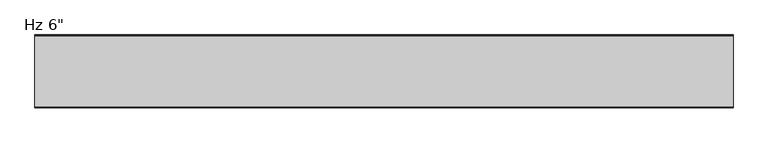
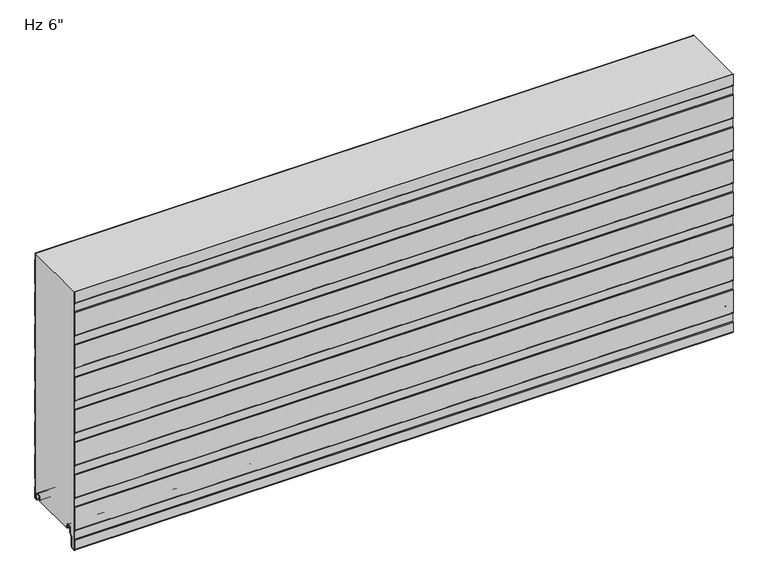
"""IFC4 building model written with IfcOpenShell, lengths in millimetres: plate geometry."""

from ifc_helpers import new_model, si_unit, point, frame, frame_2d, origin, place, context, project, spatial, polyline, circle_curve, trimmed, segment, composite_curve, outline, extrude, source, transform, mapped, element, save
from ifc_brep_helpers import plane_surface, cylinder_surface, revolved_surface, advanced_brep


def plate_5278eb09(model_context):
    return source(origin(), model_context, "Body", "SolidModel", [
        advanced_brep(
        [(-730.0, -17.0015368, 2.0313088), (-730.0, -18.00154, 1.0313116), (-730.0, -19.0015314, 2.0313088), (-730.0, -19.0015314, 6.0315125), (-730.0, -18.0015368, 6.0315125), (-730.0, -18.0015368, 8.7237223), (-730.0, -14.7015411, 12.023718), (-730.0, -10.3015499, 12.023718), (-730.0, -7.0015544, 8.7237225), (-730.0, -7.0015544, -1.6962564), (-730.0, -5.2315602, -3.4662506), (-730.0, -1.0000126, -3.4662506), (-730.0, -1.0000126, 21.034026), (-730.0, -2.2002516, 22.4196686), (-730.0, -2.2002516, 41.7948349), (-730.0, -1.0000209, 43.1804679), (-730.0, -1.0000209, 97.2338833), (-730.0, -2.2002516, 98.6195162), (-730.0, -2.2002516, 117.9946825), (-730.0, -1.0000209, 119.3803155), (-730.0, -1.0000209, 173.4337309), (-730.0, -2.2002516, 174.8193638), (-730.0, -2.2002516, 194.1945301), (-730.0, -1.0000209, 195.5801631), (-730.0, -1.0000209, 249.6335785), (-730.0, -2.2002516, 251.0192114), (-730.0, -2.2002516, 270.3943777), (-730.0, -1.0000209, 271.7800107), (-730.0, -1.0000209, 325.8334261), (-730.0, -2.2002516, 327.219059), (-730.0, -2.2002516, 346.5942253), (-730.0, -1.0000209, 347.9798583), (-730.0, -1.0000209, 402.0332737), (-730.0, -2.2002516, 403.4189066), (-730.0, -2.2002516, 422.7940729), (-730.0, -1.0000209, 424.1797059), (-730.0, -1.0000209, 478.2331213), (-730.0, -2.2002516, 479.6187542), (-730.0, -2.2002516, 498.9939205), (-730.0, -1.0000209, 500.3795535), (-730.0, -1.0000209, 554.4329689), (-730.0, -2.2002516, 555.8186018), (-730.0, -2.2002516, 571.2), (-730.0, -1.2002516, 571.2), (-730.0, -1.2002516, 556.1914823), (-730.0, -0.3418094, 555.2004346), (-730.0, -2.09e-05, 554.2838177), (-730.0, -2.09e-05, 500.5287046), (-730.0, -0.3418094, 499.6120877), (-730.0, -1.2002516, 498.6210401), (-730.0, -1.2002516, 479.9916347), (-730.0, -0.3418094, 479.000587), (-730.0, -2.09e-05, 478.0839701), (-730.0, -2.09e-05, 424.328857), (-730.0, -0.3418094, 423.4122401), (-730.0, -1.2002516, 422.4211925), (-730.0, -1.2002516, 403.7917871), (-730.0, -0.3418094, 402.8007394), (-730.0, -2.09e-05, 401.8841225), (-730.0, -2.09e-05, 348.1290094), (-730.0, -0.3418094, 347.2123925), (-730.0, -1.2002516, 346.2213449), (-730.0, -1.2002516, 327.5919395), (-730.0, -0.3418094, 326.6008918), (-730.0, -2.09e-05, 325.6842749), (-730.0, -2.09e-05, 271.9291618), (-730.0, -0.3418094, 271.0125449), (-730.0, -1.2002516, 270.0214973), (-730.0, -1.2002516, 251.3920919), (-730.0, -0.3418094, 250.4010442), (-730.0, -2.09e-05, 249.4844273), (-730.0, -2.09e-05, 195.7293142), (-730.0, -0.3418094, 194.8126973), (-730.0, -1.2002516, 193.8216497), (-730.0, -1.2002516, 175.1922443), (-730.0, -0.3418094, 174.2011966), (-730.0, -2.09e-05, 173.2845797), (-730.0, -2.09e-05, 119.5294666), (-730.0, -0.3418094, 118.6128497), (-730.0, -1.2002516, 117.6218021), (-730.0, -1.2002516, 98.9923967), (-730.0, -0.3418094, 98.001349), (-730.0, -2.09e-05, 97.0847321), (-730.0, -2.09e-05, 43.329619), (-730.0, -0.3418094, 42.4130021), (-730.0, -1.2002516, 41.4219545), (-730.0, -1.2002516, 22.7925491), (-730.0, -0.3418094, 21.8015014), (-730.0, -2.09e-05, 20.8847931), (-730.0, -1.26e-05, -3.0662545), (-730.0, -1.4000087, -4.4662506), (-730.0, -5.2315602, -4.4662506), (-730.0, -8.0015544, -1.6962564), (-730.0, -8.0015544, 8.7237225), (-730.0, -10.3015499, 11.023718), (-730.0, -14.7015411, 11.023718), (-730.0, -17.0015368, 8.7237223), (730.0, -17.0015368, 2.0313088), (730.0, -17.0015368, 8.7237223), (730.0, -14.7015411, 11.023718), (730.0, -10.3015499, 11.023718), (730.0, -8.0015544, 8.7237225), (730.0, -8.0015544, -1.6962564), (730.0, -5.2315602, -4.4662506), (730.0, -1.4000087, -4.4662506), (730.0, -1.26e-05, -3.0662545), (730.0, -1.26e-05, 20.8848845), (730.0, -0.3418094, 21.8015014), (730.0, -1.2002516, 22.7925491), (730.0, -1.2002516, 41.4219545), (730.0, -0.3418094, 42.4130021), (730.0, -2.09e-05, 43.329619), (730.0, -2.09e-05, 97.0847321), (730.0, -0.3418094, 98.001349), (730.0, -1.2002516, 98.9923967), (730.0, -1.2002516, 117.6218021), (730.0, -0.3418094, 118.6128497), (730.0, -2.09e-05, 119.5294666), (730.0, -2.09e-05, 173.2845797), (730.0, -0.3418094, 174.2011966), (730.0, -1.2002516, 175.1922443), (730.0, -1.2002516, 193.8216497), (730.0, -0.3418094, 194.8126973), (730.0, -2.09e-05, 195.7293142), (730.0, -2.09e-05, 249.4844273), (730.0, -0.3418094, 250.4010442), (730.0, -1.2002516, 251.3920919), (730.0, -1.2002516, 270.0214973), (730.0, -0.3418094, 271.0125449), (730.0, -2.09e-05, 271.9291618), (730.0, -2.09e-05, 325.6842749), (730.0, -0.3418094, 326.6008918), (730.0, -1.2002516, 327.5919395), (730.0, -1.2002516, 346.2213449), (730.0, -0.3418094, 347.2123925), (730.0, -2.09e-05, 348.1290094), (730.0, -2.09e-05, 401.8841225), (730.0, -0.3418094, 402.8007394), (730.0, -1.2002516, 403.7917871), (730.0, -1.2002516, 422.4211925), (730.0, -0.3418094, 423.4122401), (730.0, -2.09e-05, 424.328857), (730.0, -2.09e-05, 478.0839701), (730.0, -0.3418094, 479.000587), (730.0, -1.2002516, 479.9916347), (730.0, -1.2002516, 498.6210401), (730.0, -0.3418094, 499.6120877), (730.0, -2.09e-05, 500.5287046), (730.0, -2.09e-05, 554.2838177), (730.0, -0.3418094, 555.2004346), (730.0, -1.2002516, 556.1914823), (730.0, -1.2002516, 571.2), (730.0, -2.2002516, 571.2), (730.0, -2.2002516, 555.8186018), (730.0, -1.0000209, 554.4329689), (730.0, -1.0000209, 500.3795535), (730.0, -2.2002516, 498.9939205), (730.0, -2.2002516, 479.6187542), (730.0, -1.0000209, 478.2331213), (730.0, -1.0000209, 424.1797059), (730.0, -2.2002516, 422.7940729), (730.0, -2.2002516, 403.4189066), (730.0, -1.0000209, 402.0332737), (730.0, -1.0000209, 347.9798583), (730.0, -2.2002516, 346.5942253), (730.0, -2.2002516, 327.219059), (730.0, -1.0000209, 325.8334261), (730.0, -1.0000209, 271.7800107), (730.0, -2.2002516, 270.3943777), (730.0, -2.2002516, 251.0192114), (730.0, -1.0000209, 249.6335785), (730.0, -1.0000209, 195.5801631), (730.0, -2.2002516, 194.1945301), (730.0, -2.2002516, 174.8193638), (730.0, -1.0000209, 173.4337309), (730.0, -1.0000209, 119.3803155), (730.0, -2.2002516, 117.9946825), (730.0, -2.2002516, 98.6195162), (730.0, -1.0000209, 97.2338833), (730.0, -1.0000209, 43.1804679), (730.0, -2.2002516, 41.7948349), (730.0, -2.2002516, 22.4196686), (730.0, -1.0000126, 21.034026), (730.0, -1.0000126, -3.4662506), (730.0, -5.2315602, -3.4662506), (730.0, -7.0015544, -1.6962564), (730.0, -7.0015544, 8.7237225), (730.0, -10.3015499, 12.023718), (730.0, -14.7015411, 12.023718), (730.0, -18.0015368, 8.7237223), (730.0, -18.0015368, 6.0315125), (730.0, -19.0015314, 6.0315125), (730.0, -19.0015314, 2.0313088), (730.0, -18.0015401, 1.0313116)],
        [
            (0, 1, circle_curve(frame((-730.0, -18.0015341, 2.0313088), z_axis=(-1.0, 0.0, 0.0), x_axis=(0.0, 0.0, 1.0)), 0.9999973)),
            (1, 2, circle_curve(frame((-730.0, -18.0015342, 2.0313088), z_axis=(-1.0, 0.0, 0.0), x_axis=(0.0, 0.0, 1.0)), 0.9999972)),
            (2, 3),
            (3, 4),
            (4, 5),
            (5, 6, circle_curve(frame((-730.0, -14.7015411, 8.7237223), z_axis=(-1.0, 0.0, 0.0), x_axis=(0.0, 0.0, 1.0)), 3.2999957)),
            (6, 7),
            (7, 8, circle_curve(frame((-730.0, -10.3015499, 8.7237225), z_axis=(-1.0, 0.0, 0.0), x_axis=(0.0, 0.0, 1.0)), 3.2999955)),
            (8, 9),
            (9, 10, circle_curve(frame((-730.0, -5.2315602, -1.6962564), z_axis=(1.0, 0.0, 0.0), x_axis=(0.0, 0.0, 1.0)), 1.7699942)),
            (10, 11),
            (11, 12),
            (12, 13),
            (13, 14),
            (14, 15),
            (15, 16),
            (16, 17),
            (17, 18),
            (18, 19),
            (19, 20),
            (20, 21),
            (21, 22),
            (22, 23),
            (23, 24),
            (24, 25),
            (25, 26),
            (26, 27),
            (27, 28),
            (28, 29),
            (29, 30),
            (30, 31),
            (31, 32),
            (32, 33),
            (33, 34),
            (34, 35),
            (35, 36),
            (36, 37),
            (37, 38),
            (38, 39),
            (39, 40),
            (40, 41),
            (41, 42),
            (42, 43),
            (43, 44),
            (44, 45),
            (45, 46, circle_curve(frame((-730.0, -1.4000181, 554.2838177), z_axis=(-1.0, 0.0, 0.0), x_axis=(0.0, 0.0, 1.0)), 1.3999972)),
            (46, 47),
            (47, 48, circle_curve(frame((-730.0, -1.4000181, 500.5287046), z_axis=(-1.0, 0.0, 0.0), x_axis=(0.0, 0.0, 1.0)), 1.3999972)),
            (48, 49),
            (49, 50),
            (50, 51),
            (51, 52, circle_curve(frame((-730.0, -1.4000181, 478.0839701), z_axis=(-1.0, 0.0, 0.0), x_axis=(0.0, 0.0, 1.0)), 1.3999972)),
            (52, 53),
            (53, 54, circle_curve(frame((-730.0, -1.4000181, 424.328857), z_axis=(-1.0, 0.0, 0.0), x_axis=(0.0, 0.0, 1.0)), 1.3999972)),
            (54, 55),
            (55, 56),
            (56, 57),
            (57, 58, circle_curve(frame((-730.0, -1.4000181, 401.8841225), z_axis=(-1.0, 0.0, 0.0), x_axis=(0.0, 0.0, 1.0)), 1.3999972)),
            (58, 59),
            (59, 60, circle_curve(frame((-730.0, -1.4000181, 348.1290094), z_axis=(-1.0, 0.0, 0.0), x_axis=(0.0, 0.0, 1.0)), 1.3999972)),
            (60, 61),
            (61, 62),
            (62, 63),
            (63, 64, circle_curve(frame((-730.0, -1.4000181, 325.6842749), z_axis=(-1.0, 0.0, 0.0), x_axis=(0.0, 0.0, 1.0)), 1.3999972)),
            (64, 65),
            (65, 66, circle_curve(frame((-730.0, -1.4000181, 271.9291618), z_axis=(-1.0, 0.0, 0.0), x_axis=(0.0, 0.0, 1.0)), 1.3999972)),
            (66, 67),
            (67, 68),
            (68, 69),
            (69, 70, circle_curve(frame((-730.0, -1.4000181, 249.4844273), z_axis=(-1.0, 0.0, 0.0), x_axis=(0.0, 0.0, 1.0)), 1.3999972)),
            (70, 71),
            (71, 72, circle_curve(frame((-730.0, -1.4000181, 195.7293142), z_axis=(-1.0, 0.0, 0.0), x_axis=(0.0, 0.0, 1.0)), 1.3999972)),
            (72, 73),
            (73, 74),
            (74, 75),
            (75, 76, circle_curve(frame((-730.0, -1.4000181, 173.2845797), z_axis=(-1.0, 0.0, 0.0), x_axis=(0.0, 0.0, 1.0)), 1.3999972)),
            (76, 77),
            (77, 78, circle_curve(frame((-730.0, -1.4000181, 119.5294666), z_axis=(-1.0, 0.0, 0.0), x_axis=(0.0, 0.0, 1.0)), 1.3999972)),
            (78, 79),
            (79, 80),
            (80, 81),
            (81, 82, circle_curve(frame((-730.0, -1.4000181, 97.0847321), z_axis=(-1.0, 0.0, 0.0), x_axis=(0.0, 0.0, 1.0)), 1.3999972)),
            (82, 83),
            (83, 84, circle_curve(frame((-730.0, -1.4000181, 43.329619), z_axis=(-1.0, 0.0, 0.0), x_axis=(0.0, 0.0, 1.0)), 1.3999972)),
            (84, 85),
            (85, 86),
            (86, 87),
            (87, 88, circle_curve(frame((-730.0, -1.4000181, 20.8848845), z_axis=(-1.0, 0.0, 0.0), x_axis=(0.0, 0.0, 1.0)), 1.3999972)),
            (88, 89),
            (89, 90, circle_curve(frame((-730.0, -1.4000087, -3.0662545), z_axis=(-1.0, 0.0, 0.0), x_axis=(0.0, 0.0, 1.0)), 1.3999962)),
            (90, 91),
            (91, 92, circle_curve(frame((-730.0, -5.2315602, -1.6962564), z_axis=(-1.0, 0.0, 0.0), x_axis=(0.0, 0.0, 1.0)), 2.7699942)),
            (92, 93),
            (93, 94, circle_curve(frame((-730.0, -10.3015499, 8.7237225), z_axis=(1.0, 0.0, 0.0), x_axis=(0.0, 0.0, 1.0)), 2.2999955)),
            (94, 95),
            (95, 96, circle_curve(frame((-730.0, -14.7015411, 8.7237223), z_axis=(1.0, 0.0, 0.0), x_axis=(0.0, 0.0, 1.0)), 2.2999957)),
            (96, 0),
            (97, 98),
            (98, 99, circle_curve(frame((730.0, -14.7015411, 8.7237223), z_axis=(-1.0, 0.0, 0.0), x_axis=(0.0, 0.0, 1.0)), 2.2999957)),
            (99, 100),
            (100, 101, circle_curve(frame((730.0, -10.3015499, 8.7237225), z_axis=(-1.0, 0.0, 0.0), x_axis=(0.0, 0.0, 1.0)), 2.2999955)),
            (101, 102),
            (102, 103, circle_curve(frame((730.0, -5.2315602, -1.6962564), z_axis=(1.0, 0.0, 0.0), x_axis=(0.0, 0.0, 1.0)), 2.7699942)),
            (103, 104),
            (104, 105, circle_curve(frame((730.0, -1.4000087, -3.0662545), z_axis=(1.0, 0.0, 0.0), x_axis=(0.0, 0.0, 1.0)), 1.3999962)),
            (105, 106),
            (106, 107, circle_curve(frame((730.0, -1.4000181, 20.8848845), z_axis=(1.0, 0.0, 0.0), x_axis=(0.0, 0.0, 1.0)), 1.3999972)),
            (107, 108),
            (108, 109),
            (109, 110),
            (110, 111, circle_curve(frame((730.0, -1.4000181, 43.329619), z_axis=(1.0, 0.0, 0.0), x_axis=(0.0, 0.0, 1.0)), 1.3999972)),
            (111, 112),
            (112, 113, circle_curve(frame((730.0, -1.4000181, 97.0847321), z_axis=(1.0, 0.0, 0.0), x_axis=(0.0, 0.0, 1.0)), 1.3999972)),
            (113, 114),
            (114, 115),
            (115, 116),
            (116, 117, circle_curve(frame((730.0, -1.4000181, 119.5294666), z_axis=(1.0, 0.0, 0.0), x_axis=(0.0, 0.0, 1.0)), 1.3999972)),
            (117, 118),
            (118, 119, circle_curve(frame((730.0, -1.4000181, 173.2845797), z_axis=(1.0, 0.0, 0.0), x_axis=(0.0, 0.0, 1.0)), 1.3999972)),
            (119, 120),
            (120, 121),
            (121, 122),
            (122, 123, circle_curve(frame((730.0, -1.4000181, 195.7293142), z_axis=(1.0, 0.0, 0.0), x_axis=(0.0, 0.0, 1.0)), 1.3999972)),
            (123, 124),
            (124, 125, circle_curve(frame((730.0, -1.4000181, 249.4844273), z_axis=(1.0, 0.0, 0.0), x_axis=(0.0, 0.0, 1.0)), 1.3999972)),
            (125, 126),
            (126, 127),
            (127, 128),
            (128, 129, circle_curve(frame((730.0, -1.4000181, 271.9291618), z_axis=(1.0, 0.0, 0.0), x_axis=(0.0, 0.0, 1.0)), 1.3999972)),
            (129, 130),
            (130, 131, circle_curve(frame((730.0, -1.4000181, 325.6842749), z_axis=(1.0, 0.0, 0.0), x_axis=(0.0, 0.0, 1.0)), 1.3999972)),
            (131, 132),
            (132, 133),
            (133, 134),
            (134, 135, circle_curve(frame((730.0, -1.4000181, 348.1290094), z_axis=(1.0, 0.0, 0.0), x_axis=(0.0, 0.0, 1.0)), 1.3999972)),
            (135, 136),
            (136, 137, circle_curve(frame((730.0, -1.4000181, 401.8841225), z_axis=(1.0, 0.0, 0.0), x_axis=(0.0, 0.0, 1.0)), 1.3999972)),
            (137, 138),
            (138, 139),
            (139, 140),
            (140, 141, circle_curve(frame((730.0, -1.4000181, 424.328857), z_axis=(1.0, 0.0, 0.0), x_axis=(0.0, 0.0, 1.0)), 1.3999972)),
            (141, 142),
            (142, 143, circle_curve(frame((730.0, -1.4000181, 478.0839701), z_axis=(1.0, 0.0, 0.0), x_axis=(0.0, 0.0, 1.0)), 1.3999972)),
            (143, 144),
            (144, 145),
            (145, 146),
            (146, 147, circle_curve(frame((730.0, -1.4000181, 500.5287046), z_axis=(1.0, 0.0, 0.0), x_axis=(0.0, 0.0, 1.0)), 1.3999972)),
            (147, 148),
            (148, 149, circle_curve(frame((730.0, -1.4000181, 554.2838177), z_axis=(1.0, 0.0, 0.0), x_axis=(0.0, 0.0, 1.0)), 1.3999972)),
            (149, 150),
            (150, 151),
            (151, 152),
            (152, 153),
            (153, 154),
            (154, 155),
            (155, 156),
            (156, 157),
            (157, 158),
            (158, 159),
            (159, 160),
            (160, 161),
            (161, 162),
            (162, 163),
            (163, 164),
            (164, 165),
            (165, 166),
            (166, 167),
            (167, 168),
            (168, 169),
            (169, 170),
            (170, 171),
            (171, 172),
            (172, 173),
            (173, 174),
            (174, 175),
            (175, 176),
            (176, 177),
            (177, 178),
            (178, 179),
            (179, 180),
            (180, 181),
            (181, 182),
            (182, 183),
            (183, 184),
            (184, 185, circle_curve(frame((730.0, -5.2315602, -1.6962564), z_axis=(-1.0, 0.0, 0.0), x_axis=(0.0, 0.0, 1.0)), 1.7699942)),
            (185, 186),
            (186, 187, circle_curve(frame((730.0, -10.3015499, 8.7237225), z_axis=(1.0, 0.0, 0.0), x_axis=(0.0, 0.0, 1.0)), 3.2999955)),
            (187, 188),
            (188, 189, circle_curve(frame((730.0, -14.7015411, 8.7237223), z_axis=(1.0, 0.0, 0.0), x_axis=(0.0, 0.0, 1.0)), 3.2999957)),
            (189, 190),
            (190, 191),
            (191, 192),
            (192, 193, circle_curve(frame((730.0, -18.0015342, 2.0313088), z_axis=(1.0, 0.0, 0.0), x_axis=(0.0, 0.0, 1.0)), 0.9999972)),
            (193, 97, circle_curve(frame((730.0, -18.0015341, 2.0313088), z_axis=(1.0, 0.0, 0.0), x_axis=(0.0, 0.0, 1.0)), 0.9999973)),
            (96, 98),
            (97, 0),
            (95, 99),
            (94, 100),
            (93, 101),
            (92, 102),
            (91, 103),
            (90, 104),
            (89, 105),
            (88, 106),
            (87, 107),
            (86, 108),
            (85, 109),
            (84, 110),
            (83, 111),
            (82, 112),
            (81, 113),
            (80, 114),
            (79, 115),
            (78, 116),
            (77, 117),
            (76, 118),
            (75, 119),
            (74, 120),
            (73, 121),
            (72, 122),
            (71, 123),
            (70, 124),
            (69, 125),
            (68, 126),
            (67, 127),
            (66, 128),
            (65, 129),
            (64, 130),
            (63, 131),
            (62, 132),
            (61, 133),
            (60, 134),
            (59, 135),
            (58, 136),
            (57, 137),
            (56, 138),
            (55, 139),
            (54, 140),
            (53, 141),
            (52, 142),
            (51, 143),
            (50, 144),
            (49, 145),
            (48, 146),
            (47, 147),
            (46, 148),
            (45, 149),
            (44, 150),
            (43, 151),
            (152, 42),
            (41, 153),
            (40, 154),
            (39, 155),
            (38, 156),
            (37, 157),
            (36, 158),
            (35, 159),
            (34, 160),
            (33, 161),
            (32, 162),
            (31, 163),
            (30, 164),
            (29, 165),
            (28, 166),
            (27, 167),
            (26, 168),
            (25, 169),
            (24, 170),
            (23, 171),
            (22, 172),
            (21, 173),
            (20, 174),
            (19, 175),
            (18, 176),
            (17, 177),
            (16, 178),
            (15, 179),
            (14, 180),
            (13, 181),
            (12, 182),
            (11, 183),
            (10, 184),
            (9, 185),
            (8, 186),
            (7, 187),
            (6, 188),
            (5, 189),
            (4, 190),
            (3, 191),
            (2, 192),
            (1, 193),
        ],
        [
            plane_surface(frame((-730.0, -2.09e-05, 457.2), z_axis=(-1.0, 0.0, 0.0), x_axis=(0.0, 1.0, 0.0))),
            plane_surface(frame((730.0, -2.09e-05, 457.2), z_axis=(1.0, 0.0, 0.0), x_axis=(0.0, 1.0, 0.0))),
            plane_surface(frame((-730.0, -17.0015368, 2.0313088), z_axis=(0.0, 1.0, 0.0), x_axis=(1.0, 0.0, 0.0))),
            revolved_surface(polyline([(730.0, -14.7015411, 11.023718), (-730.0, -14.7015411, 11.023718)]), (-730.0, -14.7015411, 8.7237223), (1.0, 0.0, 0.0)),
            plane_surface(frame((-730.0, -14.7015411, 11.023718), z_axis=(0.0, 0.0, -1.0), x_axis=(1.0, 0.0, 0.0))),
            revolved_surface(polyline([(730.0, -10.3015499, 11.023717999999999), (-730.0, -10.3015499, 11.023717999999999)]), (-730.0, -10.3015499, 8.7237225), (1.0, 0.0, 0.0)),
            plane_surface(frame((-730.0, -8.0015544, 8.7237225), z_axis=(0.0, -1.0, 0.0), x_axis=(1.0, 0.0, 0.0))),
            cylinder_surface(frame((-730.0, -5.2315602, -1.6962564), z_axis=(-1.0, 0.0, 0.0), x_axis=(0.0, 0.0, 1.0)), 2.7699942),
            plane_surface(frame((-730.0, -5.2315602, -4.4662506), z_axis=(0.0, 0.0, -1.0), x_axis=(1.0, 0.0, 0.0))),
            cylinder_surface(frame((-730.0, -1.4000087, -3.0662545), z_axis=(-1.0, 0.0, 0.0), x_axis=(0.0, 0.0, 1.0)), 1.3999962),
            plane_surface(frame((-730.0, -1.26e-05, -3.0662545), z_axis=(0.0, 1.0, 0.0), x_axis=(1.0, 0.0, 0.0))),
            cylinder_surface(frame((-730.0, -1.4000181, 20.8848845), z_axis=(-1.0, 0.0, 0.0), x_axis=(0.0, 0.0, 1.0)), 1.3999972),
            plane_surface(frame((-730.0, -0.3418094, 21.8015014), z_axis=(0.0, 0.755864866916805, 0.6547276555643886), x_axis=(1.0, 0.0, 0.0))),
            plane_surface(frame((-730.0, -1.2002516, 32.1072518), z_axis=(0.0, 1.0, 0.0), x_axis=(1.0, 0.0, 0.0))),
            plane_surface(frame((-730.0, -1.2002516, 41.4219545), z_axis=(0.0, 0.755864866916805, -0.6547276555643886), x_axis=(1.0, 0.0, 0.0))),
            cylinder_surface(frame((-730.0, -1.4000181, 43.329619), z_axis=(-1.0, 0.0, 0.0), x_axis=(0.0, 0.0, 1.0)), 1.3999972),
            plane_surface(frame((-730.0, -2.09e-05, 43.329619), z_axis=(0.0, 1.0, 0.0), x_axis=(1.0, 0.0, 0.0))),
            cylinder_surface(frame((-730.0, -1.4000181, 97.0847321), z_axis=(-1.0, 0.0, 0.0), x_axis=(0.0, 0.0, 1.0)), 1.3999972),
            plane_surface(frame((-730.0, -0.3418094, 98.001349), z_axis=(0.0, 0.755864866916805, 0.6547276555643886), x_axis=(1.0, 0.0, 0.0))),
            plane_surface(frame((-730.0, -1.2002516, 108.3070994), z_axis=(0.0, 1.0, 0.0), x_axis=(1.0, 0.0, 0.0))),
            plane_surface(frame((-730.0, -1.2002516, 117.6218021), z_axis=(0.0, 0.755864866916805, -0.6547276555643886), x_axis=(1.0, 0.0, 0.0))),
            cylinder_surface(frame((-730.0, -1.4000181, 119.5294666), z_axis=(-1.0, 0.0, 0.0), x_axis=(0.0, 0.0, 1.0)), 1.3999972),
            plane_surface(frame((-730.0, -2.09e-05, 119.5294666), z_axis=(0.0, 1.0, 0.0), x_axis=(1.0, 0.0, 0.0))),
            cylinder_surface(frame((-730.0, -1.4000181, 173.2845797), z_axis=(-1.0, 0.0, 0.0), x_axis=(0.0, 0.0, 1.0)), 1.3999972),
            plane_surface(frame((-730.0, -0.3418094, 174.2011966), z_axis=(0.0, 0.755864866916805, 0.6547276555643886), x_axis=(1.0, 0.0, 0.0))),
            plane_surface(frame((-730.0, -1.2002516, 184.506947), z_axis=(0.0, 1.0, 0.0), x_axis=(1.0, 0.0, 0.0))),
            plane_surface(frame((-730.0, -1.2002516, 193.8216497), z_axis=(0.0, 0.755864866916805, -0.6547276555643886), x_axis=(1.0, 0.0, 0.0))),
            cylinder_surface(frame((-730.0, -1.4000181, 195.7293142), z_axis=(-1.0, 0.0, 0.0), x_axis=(0.0, 0.0, 1.0)), 1.3999972),
            plane_surface(frame((-730.0, -2.09e-05, 195.7293142), z_axis=(0.0, 1.0, 0.0), x_axis=(1.0, 0.0, 0.0))),
            cylinder_surface(frame((-730.0, -1.4000181, 249.4844273), z_axis=(-1.0, 0.0, 0.0), x_axis=(0.0, 0.0, 1.0)), 1.3999972),
            plane_surface(frame((-730.0, -0.3418094, 250.4010442), z_axis=(0.0, 0.755864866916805, 0.6547276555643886), x_axis=(1.0, 0.0, 0.0))),
            plane_surface(frame((-730.0, -1.2002516, 260.7067946), z_axis=(0.0, 1.0, 0.0), x_axis=(1.0, 0.0, 0.0))),
            plane_surface(frame((-730.0, -1.2002516, 270.0214973), z_axis=(0.0, 0.755864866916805, -0.6547276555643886), x_axis=(1.0, 0.0, 0.0))),
            cylinder_surface(frame((-730.0, -1.4000181, 271.9291618), z_axis=(-1.0, 0.0, 0.0), x_axis=(0.0, 0.0, 1.0)), 1.3999972),
            plane_surface(frame((-730.0, -2.09e-05, 271.9291618), z_axis=(0.0, 1.0, 0.0), x_axis=(1.0, 0.0, 0.0))),
            cylinder_surface(frame((-730.0, -1.4000181, 325.6842749), z_axis=(-1.0, 0.0, 0.0), x_axis=(0.0, 0.0, 1.0)), 1.3999972),
            plane_surface(frame((-730.0, -0.3418094, 326.6008918), z_axis=(0.0, 0.755864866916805, 0.6547276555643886), x_axis=(1.0, 0.0, 0.0))),
            plane_surface(frame((-730.0, -1.2002516, 336.9066422), z_axis=(0.0, 1.0, 0.0), x_axis=(1.0, 0.0, 0.0))),
            plane_surface(frame((-730.0, -1.2002516, 346.2213449), z_axis=(0.0, 0.755864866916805, -0.6547276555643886), x_axis=(1.0, 0.0, 0.0))),
            cylinder_surface(frame((-730.0, -1.4000181, 348.1290094), z_axis=(-1.0, 0.0, 0.0), x_axis=(0.0, 0.0, 1.0)), 1.3999972),
            plane_surface(frame((-730.0, -2.09e-05, 348.1290094), z_axis=(0.0, 1.0, 0.0), x_axis=(1.0, 0.0, 0.0))),
            cylinder_surface(frame((-730.0, -1.4000181, 401.8841225), z_axis=(-1.0, 0.0, 0.0), x_axis=(0.0, 0.0, 1.0)), 1.3999972),
            plane_surface(frame((-730.0, -0.3418094, 402.8007394), z_axis=(0.0, 0.755864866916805, 0.6547276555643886), x_axis=(1.0, 0.0, 0.0))),
            plane_surface(frame((-730.0, -1.2002516, 413.1064898), z_axis=(0.0, 1.0, 0.0), x_axis=(1.0, 0.0, 0.0))),
            plane_surface(frame((-730.0, -1.2002516, 422.4211925), z_axis=(0.0, 0.755864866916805, -0.6547276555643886), x_axis=(1.0, 0.0, 0.0))),
            cylinder_surface(frame((-730.0, -1.4000181, 424.328857), z_axis=(-1.0, 0.0, 0.0), x_axis=(0.0, 0.0, 1.0)), 1.3999972),
            plane_surface(frame((-730.0, -2.09e-05, 424.328857), z_axis=(0.0, 1.0, 0.0), x_axis=(1.0, 0.0, 0.0))),
            cylinder_surface(frame((-730.0, -1.4000181, 478.0839701), z_axis=(-1.0, 0.0, 0.0), x_axis=(0.0, 0.0, 1.0)), 1.3999972),
            plane_surface(frame((-730.0, -0.3418094, 479.000587), z_axis=(0.0, 0.755864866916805, 0.6547276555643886), x_axis=(1.0, 0.0, 0.0))),
            plane_surface(frame((-730.0, -1.2002516, 489.3063374), z_axis=(0.0, 1.0, 0.0), x_axis=(1.0, 0.0, 0.0))),
            plane_surface(frame((-730.0, -1.2002516, 498.6210401), z_axis=(0.0, 0.755864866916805, -0.6547276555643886), x_axis=(1.0, 0.0, 0.0))),
            cylinder_surface(frame((-730.0, -1.4000181, 500.5287046), z_axis=(-1.0, 0.0, 0.0), x_axis=(0.0, 0.0, 1.0)), 1.3999972),
            plane_surface(frame((-730.0, -2.09e-05, 500.5287046), z_axis=(0.0, 1.0, 0.0), x_axis=(1.0, 0.0, 0.0))),
            cylinder_surface(frame((-730.0, -1.4000181, 554.2838177), z_axis=(-1.0, 0.0, 0.0), x_axis=(0.0, 0.0, 1.0)), 1.3999972),
            plane_surface(frame((-730.0, -0.3418094, 555.2004346), z_axis=(0.0, 0.755864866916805, 0.6547276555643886), x_axis=(1.0, 0.0, 0.0))),
            plane_surface(frame((-730.0, -1.2002516, 565.506185), z_axis=(0.0, 1.0, 0.0), x_axis=(1.0, 0.0, 0.0))),
            plane_surface(frame((-730.0, -2.2002516, 575.1937681), z_axis=(0.0, -1.0, 0.0), x_axis=(1.0, 0.0, 0.0))),
            plane_surface(frame((-730.0, -2.2002516, 555.8186018), z_axis=(0.0, -0.755864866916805, -0.6547276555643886), x_axis=(1.0, 0.0, 0.0))),
            plane_surface(frame((-730.0, -1.0000209, 554.4329689), z_axis=(0.0, -1.0, 0.0), x_axis=(1.0, 0.0, 0.0))),
            plane_surface(frame((-730.0, -1.0000209, 500.3795535), z_axis=(0.0, -0.755864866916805, 0.6547276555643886), x_axis=(1.0, 0.0, 0.0))),
            plane_surface(frame((-730.0, -2.2002516, 498.9939205), z_axis=(0.0, -1.0, 0.0), x_axis=(1.0, 0.0, 0.0))),
            plane_surface(frame((-730.0, -2.2002516, 479.6187542), z_axis=(0.0, -0.755864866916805, -0.6547276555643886), x_axis=(1.0, 0.0, 0.0))),
            plane_surface(frame((-730.0, -1.0000209, 478.2331213), z_axis=(0.0, -1.0, 0.0), x_axis=(1.0, 0.0, 0.0))),
            plane_surface(frame((-730.0, -1.0000209, 424.1797059), z_axis=(0.0, -0.755864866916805, 0.6547276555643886), x_axis=(1.0, 0.0, 0.0))),
            plane_surface(frame((-730.0, -2.2002516, 422.7940729), z_axis=(0.0, -1.0, 0.0), x_axis=(1.0, 0.0, 0.0))),
            plane_surface(frame((-730.0, -2.2002516, 403.4189066), z_axis=(0.0, -0.755864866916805, -0.6547276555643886), x_axis=(1.0, 0.0, 0.0))),
            plane_surface(frame((-730.0, -1.0000209, 402.0332737), z_axis=(0.0, -1.0, 0.0), x_axis=(1.0, 0.0, 0.0))),
            plane_surface(frame((-730.0, -1.0000209, 347.9798583), z_axis=(0.0, -0.755864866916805, 0.6547276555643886), x_axis=(1.0, 0.0, 0.0))),
            plane_surface(frame((-730.0, -2.2002516, 346.5942253), z_axis=(0.0, -1.0, 0.0), x_axis=(1.0, 0.0, 0.0))),
            plane_surface(frame((-730.0, -2.2002516, 327.219059), z_axis=(0.0, -0.755864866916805, -0.6547276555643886), x_axis=(1.0, 0.0, 0.0))),
            plane_surface(frame((-730.0, -1.0000209, 325.8334261), z_axis=(0.0, -1.0, 0.0), x_axis=(1.0, 0.0, 0.0))),
            plane_surface(frame((-730.0, -1.0000209, 271.7800107), z_axis=(0.0, -0.755864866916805, 0.6547276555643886), x_axis=(1.0, 0.0, 0.0))),
            plane_surface(frame((-730.0, -2.2002516, 270.3943777), z_axis=(0.0, -1.0, 0.0), x_axis=(1.0, 0.0, 0.0))),
            plane_surface(frame((-730.0, -2.2002516, 251.0192114), z_axis=(0.0, -0.755864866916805, -0.6547276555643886), x_axis=(1.0, 0.0, 0.0))),
            plane_surface(frame((-730.0, -1.0000209, 249.6335785), z_axis=(0.0, -1.0, 0.0), x_axis=(1.0, 0.0, 0.0))),
            plane_surface(frame((-730.0, -1.0000209, 195.5801631), z_axis=(0.0, -0.755864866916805, 0.6547276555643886), x_axis=(1.0, 0.0, 0.0))),
            plane_surface(frame((-730.0, -2.2002516, 194.1945301), z_axis=(0.0, -1.0, 0.0), x_axis=(1.0, 0.0, 0.0))),
            plane_surface(frame((-730.0, -2.2002516, 174.8193638), z_axis=(0.0, -0.755864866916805, -0.6547276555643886), x_axis=(1.0, 0.0, 0.0))),
            plane_surface(frame((-730.0, -1.0000209, 173.4337309), z_axis=(0.0, -1.0, 0.0), x_axis=(1.0, 0.0, 0.0))),
            plane_surface(frame((-730.0, -1.0000209, 119.3803155), z_axis=(0.0, -0.755864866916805, 0.6547276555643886), x_axis=(1.0, 0.0, 0.0))),
            plane_surface(frame((-730.0, -2.2002516, 117.9946825), z_axis=(0.0, -1.0, 0.0), x_axis=(1.0, 0.0, 0.0))),
            plane_surface(frame((-730.0, -2.2002516, 98.6195162), z_axis=(0.0, -0.755864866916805, -0.6547276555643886), x_axis=(1.0, 0.0, 0.0))),
            plane_surface(frame((-730.0, -1.0000209, 97.2338833), z_axis=(0.0, -1.0, 0.0), x_axis=(1.0, 0.0, 0.0))),
            plane_surface(frame((-730.0, -1.0000209, 43.1804679), z_axis=(0.0, -0.755864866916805, 0.6547276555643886), x_axis=(1.0, 0.0, 0.0))),
            plane_surface(frame((-730.0, -2.2002516, 41.7948349), z_axis=(0.0, -1.0, 0.0), x_axis=(1.0, 0.0, 0.0))),
            plane_surface(frame((-730.0, -2.2002516, 22.4196686), z_axis=(0.0, -0.755864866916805, -0.6547276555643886), x_axis=(1.0, 0.0, 0.0))),
            plane_surface(frame((-730.0, -1.0000126, 21.034026), z_axis=(0.0, -1.0, 0.0), x_axis=(1.0, 0.0, 0.0))),
            plane_surface(frame((-730.0, -1.0000126, -3.4662506), z_axis=(0.0, 0.0, 1.0), x_axis=(1.0, 0.0, 0.0))),
            revolved_surface(polyline([(730.0, -5.2315602, 0.07373779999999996), (-730.0, -5.2315602, 0.07373779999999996)]), (-730.0, -5.2315602, -1.6962564), (1.0, 0.0, 0.0)),
            plane_surface(frame((-730.0, -7.0015544, -1.6962564), z_axis=(0.0, 1.0, 0.0), x_axis=(1.0, 0.0, 0.0))),
            cylinder_surface(frame((-730.0, -10.3015499, 8.7237225), z_axis=(-1.0, 0.0, 0.0), x_axis=(0.0, 0.0, 1.0)), 3.2999955),
            plane_surface(frame((-730.0, -10.3015499, 12.023718), z_axis=(0.0, 0.0, 1.0), x_axis=(1.0, 0.0, 0.0))),
            cylinder_surface(frame((-730.0, -14.7015411, 8.7237223), z_axis=(-1.0, 0.0, 0.0), x_axis=(0.0, 0.0, 1.0)), 3.2999957),
            plane_surface(frame((-730.0, -18.0015368, 8.7237223), z_axis=(0.0, -1.0, 0.0), x_axis=(1.0, 0.0, 0.0))),
            plane_surface(frame((-730.0, -18.0015368, 6.0315125), z_axis=(0.0, 0.0, 1.0), x_axis=(1.0, 0.0, 0.0))),
            plane_surface(frame((-730.0, -19.0015314, 6.0315125), z_axis=(0.0, -1.0, 0.0), x_axis=(1.0, 0.0, 0.0))),
            cylinder_surface(frame((-730.0, -18.0015342, 2.0313088), z_axis=(-1.0, 0.0, 0.0), x_axis=(0.0, 0.0, 1.0)), 0.9999972),
            cylinder_surface(frame((-730.0, -18.0015341, 2.0313088), z_axis=(-1.0, 0.0, 0.0), x_axis=(0.0, 0.0, 1.0)), 0.9999973),
            plane_surface(frame((730.0, 9.9999791, 571.2), z_axis=(0.0, 0.0, 1.0), x_axis=(-1.0, 0.0, 0.0))),
        ],
        [
            (0, [[1, 2, 3, 4, 5, 6, 7, 8, 9, 10, 11, 12, 13, 14, 15, 16, 17, 18, 19, 20, 21, 22, 23, 24, 25, 26, 27, 28, 29, 30, 31, 32, 33, 34, 35, 36, 37, 38, 39, 40, 41, 42, 43, 44, 45, 46, 47, 48, 49, 50, 51, 52, 53, 54, 55, 56, 57, 58, 59, 60, 61, 62, 63, 64, 65, 66, 67, 68, 69, 70, 71, 72, 73, 74, 75, 76, 77, 78, 79, 80, 81, 82, 83, 84, 85, 86, 87, 88, 89, 90, 91, 92, 93, 94, 95, 96, 97]]),
            (1, [[98, 99, 100, 101, 102, 103, 104, 105, 106, 107, 108, 109, 110, 111, 112, 113, 114, 115, 116, 117, 118, 119, 120, 121, 122, 123, 124, 125, 126, 127, 128, 129, 130, 131, 132, 133, 134, 135, 136, 137, 138, 139, 140, 141, 142, 143, 144, 145, 146, 147, 148, 149, 150, 151, 152, 153, 154, 155, 156, 157, 158, 159, 160, 161, 162, 163, 164, 165, 166, 167, 168, 169, 170, 171, 172, 173, 174, 175, 176, 177, 178, 179, 180, 181, 182, 183, 184, 185, 186, 187, 188, 189, 190, 191, 192, 193, 194]]),
            (2, [[195, -98, 196, -97]]),
            (3, [[197, -99, -195, -96]]),
            (4, [[198, -100, -197, -95]]),
            (5, [[199, -101, -198, -94]]),
            (6, [[200, -102, -199, -93]]),
            (7, [[201, -103, -200, -92]]),
            (8, [[202, -104, -201, -91]]),
            (9, [[203, -105, -202, -90]]),
            (10, [[204, -106, -203, -89]]),
            (11, [[205, -107, -204, -88]]),
            (12, [[206, -108, -205, -87]]),
            (13, [[207, -109, -206, -86]]),
            (14, [[208, -110, -207, -85]]),
            (15, [[209, -111, -208, -84]]),
            (16, [[210, -112, -209, -83]]),
            (17, [[211, -113, -210, -82]]),
            (18, [[212, -114, -211, -81]]),
            (19, [[213, -115, -212, -80]]),
            (20, [[214, -116, -213, -79]]),
            (21, [[215, -117, -214, -78]]),
            (22, [[216, -118, -215, -77]]),
            (23, [[217, -119, -216, -76]]),
            (24, [[218, -120, -217, -75]]),
            (25, [[219, -121, -218, -74]]),
            (26, [[220, -122, -219, -73]]),
            (27, [[221, -123, -220, -72]]),
            (28, [[222, -124, -221, -71]]),
            (29, [[223, -125, -222, -70]]),
            (30, [[224, -126, -223, -69]]),
            (31, [[225, -127, -224, -68]]),
            (32, [[226, -128, -225, -67]]),
            (33, [[227, -129, -226, -66]]),
            (34, [[228, -130, -227, -65]]),
            (35, [[229, -131, -228, -64]]),
            (36, [[230, -132, -229, -63]]),
            (37, [[231, -133, -230, -62]]),
            (38, [[232, -134, -231, -61]]),
            (39, [[233, -135, -232, -60]]),
            (40, [[234, -136, -233, -59]]),
            (41, [[235, -137, -234, -58]]),
            (42, [[236, -138, -235, -57]]),
            (43, [[237, -139, -236, -56]]),
            (44, [[238, -140, -237, -55]]),
            (45, [[239, -141, -238, -54]]),
            (46, [[240, -142, -239, -53]]),
            (47, [[241, -143, -240, -52]]),
            (48, [[242, -144, -241, -51]]),
            (49, [[243, -145, -242, -50]]),
            (50, [[244, -146, -243, -49]]),
            (51, [[245, -147, -244, -48]]),
            (52, [[246, -148, -245, -47]]),
            (53, [[247, -149, -246, -46]]),
            (54, [[248, -150, -247, -45]]),
            (55, [[-44, 249, -151, -248]]),
            (56, [[-153, 250, -42, 251]]),
            (57, [[252, -154, -251, -41]]),
            (58, [[253, -155, -252, -40]]),
            (59, [[254, -156, -253, -39]]),
            (60, [[255, -157, -254, -38]]),
            (61, [[256, -158, -255, -37]]),
            (62, [[257, -159, -256, -36]]),
            (63, [[258, -160, -257, -35]]),
            (64, [[259, -161, -258, -34]]),
            (65, [[260, -162, -259, -33]]),
            (66, [[261, -163, -260, -32]]),
            (67, [[262, -164, -261, -31]]),
            (68, [[263, -165, -262, -30]]),
            (69, [[264, -166, -263, -29]]),
            (70, [[265, -167, -264, -28]]),
            (71, [[266, -168, -265, -27]]),
            (72, [[267, -169, -266, -26]]),
            (73, [[268, -170, -267, -25]]),
            (74, [[269, -171, -268, -24]]),
            (75, [[270, -172, -269, -23]]),
            (76, [[271, -173, -270, -22]]),
            (77, [[272, -174, -271, -21]]),
            (78, [[273, -175, -272, -20]]),
            (79, [[274, -176, -273, -19]]),
            (80, [[275, -177, -274, -18]]),
            (81, [[276, -178, -275, -17]]),
            (82, [[277, -179, -276, -16]]),
            (83, [[278, -180, -277, -15]]),
            (84, [[279, -181, -278, -14]]),
            (85, [[280, -182, -279, -13]]),
            (86, [[281, -183, -280, -12]]),
            (87, [[282, -184, -281, -11]]),
            (88, [[283, -185, -282, -10]]),
            (89, [[284, -186, -283, -9]]),
            (90, [[285, -187, -284, -8]]),
            (91, [[286, -188, -285, -7]]),
            (92, [[287, -189, -286, -6]]),
            (93, [[288, -190, -287, -5]]),
            (94, [[289, -191, -288, -4]]),
            (95, [[290, -192, -289, -3]]),
            (96, [[291, -193, -290, -2]]),
            (97, [[-196, -194, -291, -1]]),
            (98, [[-250, -152, -249, -43]]),
        ],
    ),
        extrude(outline(composite_curve([segment(trimmed(circle_curve(frame_2d((-150.9998926, -10.6415934)), 1.3998661), [point((-152.3997587, -10.6415934))], [point((-151.9325165, -9.5976403))], False, "CARTESIAN"), True, "CONTINUOUS"), segment(polyline([(-151.9325165, -9.5976403), (-151.1997902, -8.8649141), (-151.1997902, 10.0260713), (-151.9327558, 10.7590369)]), True, "CONTINUOUS"), segment(trimmed(circle_curve(frame_2d((-151.0000446, 11.8030877)), 1.3999972), [point((-151.9327558, 10.7590369))], [point((-152.4000209, 11.810741))], False, "CARTESIAN"), True, "CONTINUOUS"), segment(polyline([(-152.4000209, 11.810741), (-152.4000209, 65.5582542)]), True, "CONTINUOUS"), segment(trimmed(circle_curve(frame_2d((-151.0000237, 65.5582542)), 1.3999972), [point((-152.4000209, 65.5582542))], [point((-151.9327349, 66.602305))], False, "CARTESIAN"), True, "CONTINUOUS"), segment(polyline([(-151.9327349, 66.602305), (-151.1997902, 67.3352497), (-151.1997902, 86.2259189), (-151.9327558, 86.9588845)]), True, "CONTINUOUS"), segment(trimmed(circle_curve(frame_2d((-151.0000446, 88.0029353)), 1.3999972), [point((-151.9327558, 86.9588845))], [point((-152.4000209, 88.0105886))], False, "CARTESIAN"), True, "CONTINUOUS"), segment(polyline([(-152.4000209, 88.0105886), (-152.4000209, 141.7581018)]), True, "CONTINUOUS"), segment(trimmed(circle_curve(frame_2d((-151.0000237, 141.7581018)), 1.3999972), [point((-152.4000209, 141.7581018))], [point((-151.9327349, 142.8021526))], False, "CARTESIAN"), True, "CONTINUOUS"), segment(polyline([(-151.9327349, 142.8021526), (-151.1997902, 143.5350973), (-151.1997902, 162.4257665), (-151.9327558, 163.1587321)]), True, "CONTINUOUS"), segment(trimmed(circle_curve(frame_2d((-151.0000446, 164.2027829)), 1.3999972), [point((-151.9327558, 163.1587321))], [point((-152.4000209, 164.2104362))], False, "CARTESIAN"), True, "CONTINUOUS"), segment(polyline([(-152.4000209, 164.2104362), (-152.4000209, 217.9579494)]), True, "CONTINUOUS"), segment(trimmed(circle_curve(frame_2d((-151.0000237, 217.9579494)), 1.3999972), [point((-152.4000209, 217.9579494))], [point((-151.9327349, 219.0020002))], False, "CARTESIAN"), True, "CONTINUOUS"), segment(polyline([(-151.9327349, 219.0020002), (-151.1997902, 219.7349449), (-151.1997902, 238.6256141), (-151.9327558, 239.3585797)]), True, "CONTINUOUS"), segment(trimmed(circle_curve(frame_2d((-151.0000446, 240.4026305)), 1.3999972), [point((-151.9327558, 239.3585797))], [point((-152.4000209, 240.4102838))], False, "CARTESIAN"), True, "CONTINUOUS"), segment(polyline([(-152.4000209, 240.4102838), (-152.4000209, 294.157797)]), True, "CONTINUOUS"), segment(trimmed(circle_curve(frame_2d((-151.0000237, 294.157797)), 1.3999972), [point((-152.4000209, 294.157797))], [point((-151.9327349, 295.2018478))], False, "CARTESIAN"), True, "CONTINUOUS"), segment(polyline([(-151.9327349, 295.2018478), (-151.1997902, 295.9347925), (-151.1997902, 314.8254617), (-151.9327558, 315.5584273)]), True, "CONTINUOUS"), segment(trimmed(circle_curve(frame_2d((-151.0000446, 316.6024781)), 1.3999972), [point((-151.9327558, 315.5584273))], [point((-152.4000209, 316.6101314))], False, "CARTESIAN"), True, "CONTINUOUS"), segment(polyline([(-152.4000209, 316.6101314), (-152.4000209, 370.3576446)]), True, "CONTINUOUS"), segment(trimmed(circle_curve(frame_2d((-151.0000237, 370.3576446)), 1.3999972), [point((-152.4000209, 370.3576446))], [point((-151.9327349, 371.4016954))], False, "CARTESIAN"), True, "CONTINUOUS"), segment(polyline([(-151.9327349, 371.4016954), (-151.1997902, 372.1346401), (-151.1997902, 391.0253093), (-151.9327558, 391.7582749)]), True, "CONTINUOUS"), segment(trimmed(circle_curve(frame_2d((-151.0000446, 392.8023257)), 1.3999972), [point((-151.9327558, 391.7582749))], [point((-152.4000209, 392.809979))], False, "CARTESIAN"), True, "CONTINUOUS"), segment(polyline([(-152.4000209, 392.809979), (-152.4000209, 446.5574922)]), True, "CONTINUOUS"), segment(trimmed(circle_curve(frame_2d((-151.0000237, 446.5574922)), 1.3999972), [point((-152.4000209, 446.5574922))], [point((-151.9327349, 447.601543))], False, "CARTESIAN"), True, "CONTINUOUS"), segment(polyline([(-151.9327349, 447.601543), (-151.1997902, 448.3344877), (-151.1997902, 467.2251569), (-151.9327558, 467.9581225)]), True, "CONTINUOUS"), segment(trimmed(circle_curve(frame_2d((-151.0000446, 469.0021733)), 1.3999972), [point((-151.9327558, 467.9581225))], [point((-152.4000209, 469.0098266))], False, "CARTESIAN"), True, "CONTINUOUS"), segment(polyline([(-152.4000209, 469.0098266), (-152.4000209, 522.7573398)]), True, "CONTINUOUS"), segment(trimmed(circle_curve(frame_2d((-151.0000237, 522.7573398)), 1.3999972), [point((-152.4000209, 522.7573398))], [point((-151.9327349, 523.8013906))], False, "CARTESIAN"), True, "CONTINUOUS"), segment(polyline([(-151.9327349, 523.8013906), (-151.1997902, 524.5343353), (-151.1997902, 543.4250045), (-151.9327558, 544.1579701)]), True, "CONTINUOUS"), segment(trimmed(circle_curve(frame_2d((-151.0000446, 545.2020209)), 1.3999972), [point((-151.9327558, 544.1579701))], [point((-152.4000209, 545.2096742))], False, "CARTESIAN"), True, "CONTINUOUS"), segment(polyline([(-152.4000209, 545.2096742), (-152.4000209, 571.2), (-151.4000209, 571.2), (-151.4000209, 545.0405554), (-150.1997902, 543.8403247), (-150.1997902, 524.1209122), (-151.4000209, 522.9206815), (-151.4000209, 468.8405497), (-150.1997902, 467.640319), (-150.1997902, 447.9209065), (-151.4000209, 446.7206758), (-151.4000209, 392.640544), (-150.1997902, 391.4403133), (-150.1997902, 371.7209008), (-151.4000209, 370.5206701), (-151.4000209, 316.4405383), (-150.1997902, 315.2403076), (-150.1997902, 295.5208951), (-151.4000209, 294.3206644), (-151.4000209, 240.2405326), (-150.1997902, 239.0403019), (-150.1997902, 219.3208894), (-151.4000209, 218.1206587), (-151.4000209, 164.0405269), (-150.1997902, 162.8402962), (-150.1997902, 143.1208837), (-151.4000209, 141.920653), (-151.4000209, 87.8405213), (-150.1997902, 86.6402905), (-150.1997902, 66.920878), (-151.4000209, 65.7206473), (-151.4000209, 11.6405156), (-150.1997902, 10.4402849), (-150.1997902, -9.2791277), (-151.3997587, -10.4790962), (-151.3997587, -32.4521176)]), True, "CONTINUOUS"), segment(trimmed(circle_curve(frame_2d((-148.8295195, -32.4521176)), 2.5702393), [point((-151.3997587, -32.4521176))], [point((-148.6054338, -35.0125699))], True, "CARTESIAN"), True, "CONTINUOUS"), segment(polyline([(-148.6054338, -35.0125699), (-143.6236129, -34.5765709)]), True, "CONTINUOUS"), segment(trimmed(circle_curve(frame_2d((-144.1050035, -31.9198392)), 2.6999926), [point((-143.6236129, -34.5765709))], [point((-141.4050109, -31.9198392))], True, "CARTESIAN"), True, "CONTINUOUS"), segment(polyline([(-141.4050109, -31.9198392), (-141.4050109, -9.8247096), (-135.9029398, -4.3226385)]), True, "CONTINUOUS"), segment(trimmed(circle_curve(frame_2d((-137.1050175, -3.1205608)), 1.6999946), [point((-135.9029398, -4.3226385))], [point((-135.4050229, -3.1205608))], True, "CARTESIAN"), True, "CONTINUOUS"), segment(polyline([(-135.4050229, -3.1205608), (-135.4050229, 8.6903283)]), True, "CONTINUOUS"), segment(trimmed(circle_curve(frame_2d((-132.0550276, 8.6903283)), 3.3499953), [point((-135.4050229, 8.6903283))], [point((-132.0550276, 12.0403236))], False, "CARTESIAN"), True, "CONTINUOUS"), segment(polyline([(-132.0550276, 12.0403236), (-127.6550364, 12.0403236)]), True, "CONTINUOUS"), segment(trimmed(circle_curve(frame_2d((-127.6550364, 8.6903283)), 3.3499953), [point((-127.6550364, 12.0403236))], [point((-124.3050411, 8.6903283))], False, "CARTESIAN"), True, "CONTINUOUS"), segment(polyline([(-124.3050411, 8.6903283), (-124.3050411, 5.9912173), (-122.9065623, 5.9912173), (-122.9065623, 2.2328239)]), True, "CONTINUOUS"), segment(trimmed(circle_curve(frame_2d((-124.1065589, 2.2313092)), 1.1999976), [point((-122.9065623, 2.2328239))], [point((-124.076037, 1.0316999))], False, "CARTESIAN"), True, "CONTINUOUS"), segment(trimmed(circle_curve(frame_2d((-124.1065589, 2.2313092)), 1.1999976), [point((-124.076037, 1.0316999))], [point((-125.3050411, 2.1710221))], False, "CARTESIAN"), True, "CONTINUOUS"), segment(polyline([(-125.3050411, 2.1710221), (-125.3050411, 8.6903283)]), True, "CONTINUOUS"), segment(trimmed(circle_curve(frame_2d((-127.6550364, 8.6903283)), 2.3499953), [point((-125.3050411, 8.6903283))], [point((-127.6550364, 11.0403236))], True, "CARTESIAN"), True, "CONTINUOUS"), segment(polyline([(-127.6550364, 11.0403236), (-132.0550276, 11.0403236)]), True, "CONTINUOUS"), segment(trimmed(circle_curve(frame_2d((-132.0550276, 8.6903283)), 2.3499953), [point((-132.0550276, 11.0403236))], [point((-134.4050229, 8.6903283))], True, "CARTESIAN"), True, "CONTINUOUS"), segment(polyline([(-134.4050229, 8.6903283), (-134.4050229, -3.1205608)]), True, "CONTINUOUS"), segment(trimmed(circle_curve(frame_2d((-137.1050175, -3.1205608)), 2.6999946), [point((-134.4050229, -3.1205608))], [point((-135.1958331, -5.0297453))], False, "CARTESIAN"), True, "CONTINUOUS"), segment(polyline([(-135.1958331, -5.0297453), (-140.0242505, -9.8581627)]), True, "CONTINUOUS"), segment(trimmed(circle_curve(frame_2d((-139.1050135, -10.7773997)), 1.2999974), [point((-140.0242505, -9.8581627))], [point((-140.4050109, -10.7773997))], True, "CARTESIAN"), True, "CONTINUOUS"), segment(polyline([(-140.4050109, -10.7773997), (-140.4050109, -31.9198392)]), True, "CONTINUOUS"), segment(trimmed(circle_curve(frame_2d((-144.1050035, -31.9198392)), 3.6999926), [point((-140.4050109, -31.9198392))], [point((-143.4942024, -35.5690675))], False, "CARTESIAN"), True, "CONTINUOUS"), segment(polyline([(-143.4942024, -35.5690675), (-148.5182491, -36.008762)]), True, "CONTINUOUS"), segment(trimmed(circle_curve(frame_2d((-148.8295195, -32.4521176)), 3.5702393), [point((-148.5182491, -36.008762))], [point((-152.3997587, -32.4521176))], False, "CARTESIAN"), True, "CONTINUOUS"), segment(polyline([(-152.3997587, -32.4521176), (-152.3997587, -10.6415934)]), True, "CONTINUOUS")], self_intersect=False)), frame((-730.0, 0.0, 0.0), z_axis=(1.0, 0.0, 0.0), x_axis=(0.0, 1.0, 0.0)), (0.0, 0.0, 1.0), 1460.0),
        extrude(outline(composite_curve([segment(trimmed(circle_curve(frame_2d((-124.1065589, 2.2313092)), 1.1999976), [point((-124.076037, 1.0316999))], [point((-122.9065623, 2.2328239))], True, "CARTESIAN"), True, "CONTINUOUS"), segment(polyline([(-122.9065623, 2.2328239), (-122.9065623, 5.9912173), (-124.3050411, 5.9912173), (-124.3050411, 8.6903283)]), True, "CONTINUOUS"), segment(trimmed(circle_curve(frame_2d((-127.6550364, 8.6903283)), 3.3499953), [point((-124.3050411, 8.6903283))], [point((-127.6550364, 12.0403236))], True, "CARTESIAN"), True, "CONTINUOUS"), segment(polyline([(-127.6550364, 12.0403236), (-132.0550276, 12.0403236)]), True, "CONTINUOUS"), segment(trimmed(circle_curve(frame_2d((-132.0550276, 8.6903283)), 3.3499953), [point((-132.0550276, 12.0403236))], [point((-135.4050229, 8.6903283))], True, "CARTESIAN"), True, "CONTINUOUS"), segment(polyline([(-135.4050229, 8.6903283), (-135.4050229, -3.1205608)]), True, "CONTINUOUS"), segment(trimmed(circle_curve(frame_2d((-137.1050175, -3.1205608)), 1.6999946), [point((-135.4050229, -3.1205608))], [point((-135.9029398, -4.3226385))], False, "CARTESIAN"), True, "CONTINUOUS"), segment(polyline([(-135.9029398, -4.3226385), (-141.4050109, -9.8247096), (-141.4050109, -31.9198392)]), True, "CONTINUOUS"), segment(trimmed(circle_curve(frame_2d((-144.1050035, -31.9198392)), 2.6999926), [point((-141.4050109, -31.9198392))], [point((-143.6236129, -34.5765709))], False, "CARTESIAN"), True, "CONTINUOUS"), segment(polyline([(-143.6236129, -34.5765709), (-148.6054338, -35.0125699)]), True, "CONTINUOUS"), segment(trimmed(circle_curve(frame_2d((-148.8295195, -32.4521176)), 2.5702393), [point((-148.6054338, -35.0125699))], [point((-151.3997587, -32.4521176))], False, "CARTESIAN"), True, "CONTINUOUS"), segment(polyline([(-151.3997587, -32.4521176), (-151.3997587, -10.4790962), (-150.1997902, -9.2791277), (-150.1997902, 10.4402849), (-151.4000209, 11.6405156), (-151.4000209, 65.7206473), (-150.1997902, 66.920878), (-150.1997902, 86.6402905), (-151.4000209, 87.8405213), (-151.4000209, 141.920653), (-150.1997902, 143.1208837), (-150.1997902, 162.8402962), (-151.4000209, 164.0405269), (-151.4000209, 218.1206587), (-150.1997902, 219.3208894), (-150.1997902, 239.0403019), (-151.4000209, 240.2405326), (-151.4000209, 294.3206644), (-150.1997902, 295.5208951), (-150.1997902, 315.2403076), (-151.4000209, 316.4405383), (-151.4000209, 370.5206701), (-150.1997902, 371.7209008), (-150.1997902, 391.4403133), (-151.4000209, 392.640544), (-151.4000209, 446.7206758), (-150.1997902, 447.9209065), (-150.1997902, 467.640319), (-151.4000209, 468.8405497), (-151.4000209, 522.9206815), (-150.1997902, 524.1209122), (-150.1997902, 543.8403247), (-151.4000209, 545.0405554), (-151.4000209, 571.2), (-2.2002516, 571.2), (-2.2002516, 555.8186019), (-1.0000209, 554.4329689), (-1.0000209, 500.3795535), (-2.2002516, 498.9939206), (-2.2002516, 479.6187543), (-1.0000209, 478.2331213), (-1.0000209, 424.1797059), (-2.2002516, 422.794073), (-2.2002516, 403.4189067), (-1.0000209, 402.0332737), (-1.0000209, 347.9798583), (-2.2002516, 346.5942254), (-2.2002516, 327.2190591), (-1.0000209, 325.8334261), (-1.0000209, 271.7800107), (-2.2002516, 270.3943778), (-2.2002516, 251.0192115), (-1.0000209, 249.6335785), (-1.0000209, 195.5801631), (-2.2002516, 194.1945302), (-2.2002516, 174.8193639), (-1.0000209, 173.4337309), (-1.0000209, 119.3803155), (-2.2002516, 117.9946826), (-2.2002516, 98.6195163), (-1.0000209, 97.2338833), (-1.0000209, 43.1804679), (-2.2002516, 41.794835), (-2.2002516, 22.4196687), (-1.0000126, 21.034026), (-1.0000126, -3.4662506), (-5.2315599, -3.4662506)]), True, "CONTINUOUS"), segment(trimmed(circle_curve(frame_2d((-5.2315599, -1.6962564)), 1.7699942), [point((-5.2315599, -3.4662506))], [point((-7.001554, -1.6962564))], False, "CARTESIAN"), True, "CONTINUOUS"), segment(polyline([(-7.001554, -1.6962564), (-7.001554, 8.7237222)]), True, "CONTINUOUS"), segment(trimmed(circle_curve(frame_2d((-10.3015499, 8.7237222)), 3.2999959), [point((-7.001554, 8.7237222))], [point((-10.3015499, 12.023718))], True, "CARTESIAN"), True, "CONTINUOUS"), segment(polyline([(-10.3015499, 12.023718), (-14.7015411, 12.023718)]), True, "CONTINUOUS"), segment(trimmed(circle_curve(frame_2d((-14.7015411, 8.7237223)), 3.2999957), [point((-14.7015411, 12.023718))], [point((-18.0015368, 8.7237223))], True, "CARTESIAN"), True, "CONTINUOUS"), segment(polyline([(-18.0015368, 8.7237223), (-18.0015368, 6.0315125), (-19.0015314, 6.0315125), (-19.0015314, 2.0313089)]), True, "CONTINUOUS"), segment(trimmed(circle_curve(frame_2d((-18.0015342, 2.0313089)), 0.9999972), [point((-19.0015314, 2.0313089))], [point((-18.0015401, 1.0313117))], True, "CARTESIAN"), True, "CONTINUOUS"), segment(polyline([(-18.0015401, 1.0313117), (-19.0328517, 0.0), (-123.0443371, 0.0), (-124.076037, 1.0316999)]), True, "CONTINUOUS")], self_intersect=False)), frame((-730.0, 0.0, 0.0), z_axis=(1.0, 0.0, 0.0), x_axis=(0.0, 1.0, 0.0)), (0.0, 0.0, 1.0), 1460.0),
    ])


if __name__ == "__main__":
    model = new_model("IFC4")
    model_context = context("Model", 3, world=origin())
    ifc_project = project(units=[si_unit("LENGTHUNIT", "METRE", prefix="MILLI")], contexts=[model_context])
    site = spatial("IfcSite", under=ifc_project)
    building = spatial("IfcBuilding", under=site)
    placement = place(None, origin())
    plate_shape = plate_5278eb09(model_context)
    element("IfcPlate", 1, ObjectType="KIP-36-Karrier-KP-R19-CP-Hz-SL3-8in_SL : Hz 6\"", at=placement, inside=building, context=model_context, shape_type="MappedRepresentation", body=[
        mapped(plate_shape, transform((0.0, 0.0, 0.0), x_axis=(1.0, 0.0, 0.0), y_axis=(0.0, 1.0, 0.0), z_axis=(0.0, 0.0, 1.0))),
    ])
    save(model, "model.ifc")
